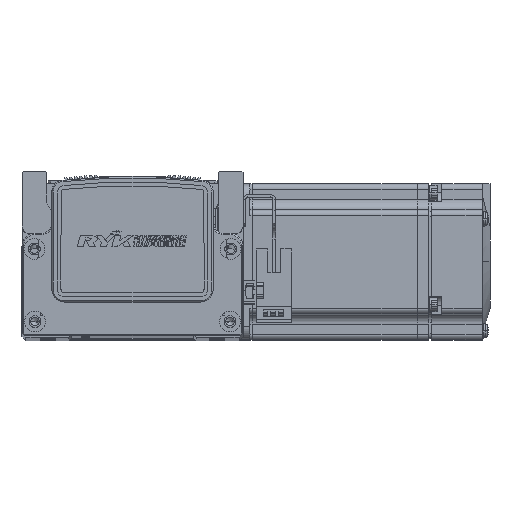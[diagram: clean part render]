
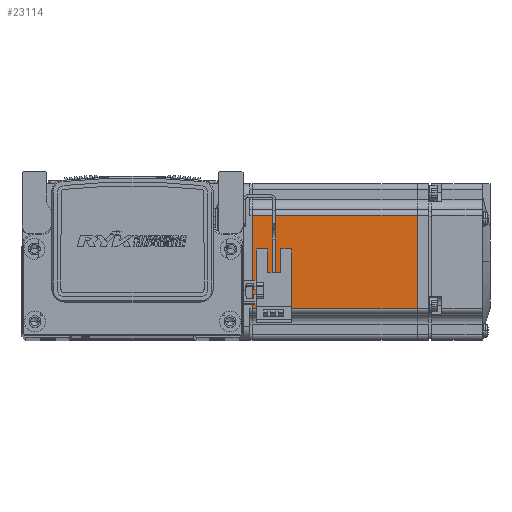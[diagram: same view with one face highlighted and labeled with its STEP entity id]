
A CAD part, top view. The second image highlights one B-rep face of the part: STEP entity #23114.
In plain terms, the highlighted planar face has unit normal (0, 0, 1) as drawn and (0, 0, -1) by its records, which use the part's own axes.
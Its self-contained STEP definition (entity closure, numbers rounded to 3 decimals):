
#7176 = EDGE_CURVE ( 'NONE', #23821, #23871, #67065, .T. ) ;
#7315 = EDGE_CURVE ( 'NONE', #23871, #23896, #67169, .T. ) ;
#7333 = EDGE_CURVE ( 'NONE', #23874, #23821, #67165, .T. ) ;
#7395 = EDGE_CURVE ( 'NONE', #23896, #23874, #67323, .T. ) ;
#8778 = AXIS2_PLACEMENT_3D ( 'NONE', #61824, #61874, #61811 ) ;
#10505 = EDGE_LOOP ( 'NONE', ( #19947, #19929, #19918, #19925 ) ) ;
#19918 = ORIENTED_EDGE ( 'NONE', *, *, #7176, .T. ) ;
#19925 = ORIENTED_EDGE ( 'NONE', *, *, #7315, .T. ) ;
#19929 = ORIENTED_EDGE ( 'NONE', *, *, #7333, .T. ) ;
#19947 = ORIENTED_EDGE ( 'NONE', *, *, #7395, .T. ) ;
#23114 = ADVANCED_FACE ( 'NONE', ( #59238 ), #61836, .T. ) ;
#23821 = VERTEX_POINT ( 'NONE', #68070 ) ;
#23871 = VERTEX_POINT ( 'NONE', #68299 ) ;
#23874 = VERTEX_POINT ( 'NONE', #68380 ) ;
#23896 = VERTEX_POINT ( 'NONE', #68429 ) ;
#59238 = FACE_OUTER_BOUND ( 'NONE', #10505, .T. ) ;
#61811 = DIRECTION ( 'NONE',  ( -1., 0., 0. ) ) ;
#61824 = CARTESIAN_POINT ( 'NONE',  ( -6.5, 25., -30. ) ) ;
#61836 = PLANE ( 'NONE',  #8778 ) ;
#61874 = DIRECTION ( 'NONE',  ( 0., 0., -1. ) ) ;
#65132 = CARTESIAN_POINT ( 'NONE',  ( -70.95, 25., -30. ) ) ;
#65145 = DIRECTION ( 'NONE',  ( 0., 1., 0. ) ) ;
#65272 = DIRECTION ( 'NONE',  ( 1., 0., 0. ) ) ;
#65291 = CARTESIAN_POINT ( 'NONE',  ( -6.5, 18., -30. ) ) ;
#65331 = DIRECTION ( 'NONE',  ( -1., 0., 0. ) ) ;
#65342 = CARTESIAN_POINT ( 'NONE',  ( -6.5, -18., -30. ) ) ;
#65376 = CARTESIAN_POINT ( 'NONE',  ( -7.75, 25., -30. ) ) ;
#65388 = DIRECTION ( 'NONE',  ( 0., -1., 0. ) ) ;
#67065 = LINE ( 'NONE', #65132, #67072 ) ;
#67072 = VECTOR ( 'NONE', #65145, 1000. ) ;
#67165 = LINE ( 'NONE', #65342, #67350 ) ;
#67169 = LINE ( 'NONE', #65291, #67180 ) ;
#67180 = VECTOR ( 'NONE', #65272, 1000. ) ;
#67300 = VECTOR ( 'NONE', #65388, 1000. ) ;
#67323 = LINE ( 'NONE', #65376, #67300 ) ;
#67350 = VECTOR ( 'NONE', #65331, 1000. ) ;
#68070 = CARTESIAN_POINT ( 'NONE',  ( -70.95, -18., -30. ) ) ;
#68299 = CARTESIAN_POINT ( 'NONE',  ( -70.95, 18., -30. ) ) ;
#68380 = CARTESIAN_POINT ( 'NONE',  ( -7.75, -18., -30. ) ) ;
#68429 = CARTESIAN_POINT ( 'NONE',  ( -7.75, 18., -30. ) ) ;
